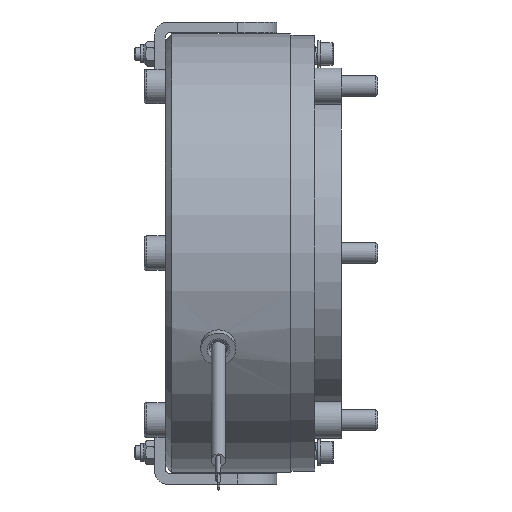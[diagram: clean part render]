
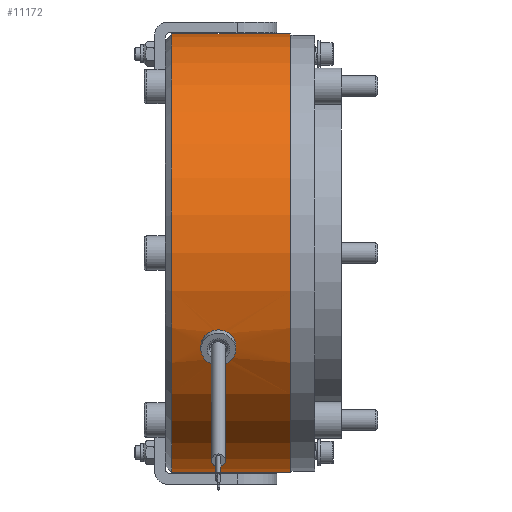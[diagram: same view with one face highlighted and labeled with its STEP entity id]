
A CAD part, front view. The second image highlights one B-rep face of the part: STEP entity #11172.
In plain terms, the highlighted cylindrical face has radius 82.5 mm (diameter 165 mm), a full revolution.
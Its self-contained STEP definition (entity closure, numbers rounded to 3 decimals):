
#364=B_SPLINE_CURVE_WITH_KNOTS('',3,(#19378,#19379,#19380,#19381,#19382,
#19383,#19384,#19385,#19386,#19387,#19388,#19389,#19390),.UNSPECIFIED.,
 .F.,.F.,(4,1,1,1,1,1,1,1,1,1,4),(-3.479,-3.355,-3.231,
-3.107,-2.982,-2.858,-2.734,-2.485,
-2.237,-1.988,-1.74),.UNSPECIFIED.);
#365=B_SPLINE_CURVE_WITH_KNOTS('',3,(#19391,#19392,#19393,#19394,#19395,
#19396,#19397,#19398,#19399,#19400,#19401,#19402,#19403),.UNSPECIFIED.,
 .F.,.F.,(4,1,1,1,1,1,1,1,1,1,4),(-1.74,-1.657,-1.491,
-0.994,-0.746,-0.621,-0.497,
-0.373,-0.249,-0.124,0.),
 .UNSPECIFIED.);
#675=CYLINDRICAL_SURFACE('',#12210,82.5);
#804=FACE_BOUND('',#2521,.T.);
#1290=CIRCLE('',#12211,82.5);
#1291=CIRCLE('',#12212,82.5);
#1292=CIRCLE('',#12213,82.5);
#1293=CIRCLE('',#12214,82.5);
#1887=FACE_OUTER_BOUND('',#2520,.T.);
#2520=EDGE_LOOP('',(#8842,#8843,#8844,#8845,#8846,#8847));
#2521=EDGE_LOOP('',(#8848,#8849,#8850,#8851,#8852,#8853));
#3218=LINE('',#19410,#3795);
#3219=LINE('',#19414,#3796);
#3220=LINE('',#19415,#3797);
#3795=VECTOR('',#14578,82.5);
#3796=VECTOR('',#14583,10.);
#3797=VECTOR('',#14584,10.);
#4705=VERTEX_POINT('',#19141);
#4706=VERTEX_POINT('',#19142);
#4708=VERTEX_POINT('',#19149);
#4709=VERTEX_POINT('',#19151);
#4768=VERTEX_POINT('',#19405);
#4769=VERTEX_POINT('',#19406);
#4770=VERTEX_POINT('',#19409);
#4771=VERTEX_POINT('',#19411);
#6213=EDGE_CURVE('',#4708,#4709,#364,.T.);
#6214=EDGE_CURVE('',#4709,#4708,#365,.T.);
#6215=EDGE_CURVE('',#4768,#4769,#1290,.T.);
#6216=EDGE_CURVE('',#4769,#4768,#1291,.T.);
#6217=EDGE_CURVE('',#4769,#4770,#3218,.T.);
#6218=EDGE_CURVE('',#4771,#4770,#1292,.T.);
#6219=EDGE_CURVE('',#4770,#4771,#1293,.T.);
#6220=EDGE_CURVE('',#4708,#4706,#3219,.T.);
#6221=EDGE_CURVE('',#4705,#4709,#3220,.T.);
#8842=ORIENTED_EDGE('',*,*,#6215,.F.);
#8843=ORIENTED_EDGE('',*,*,#6216,.F.);
#8844=ORIENTED_EDGE('',*,*,#6217,.T.);
#8845=ORIENTED_EDGE('',*,*,#6218,.F.);
#8846=ORIENTED_EDGE('',*,*,#6219,.F.);
#8847=ORIENTED_EDGE('',*,*,#6217,.F.);
#8848=ORIENTED_EDGE('',*,*,#6213,.F.);
#8849=ORIENTED_EDGE('',*,*,#6220,.T.);
#8850=ORIENTED_EDGE('',*,*,#6220,.F.);
#8851=ORIENTED_EDGE('',*,*,#6214,.F.);
#8852=ORIENTED_EDGE('',*,*,#6221,.F.);
#8853=ORIENTED_EDGE('',*,*,#6221,.T.);
#11172=ADVANCED_FACE('',(#1887,#804),#675,.T.);
#12210=AXIS2_PLACEMENT_3D('',#19404,#14572,#14573);
#12211=AXIS2_PLACEMENT_3D('',#19407,#14574,#14575);
#12212=AXIS2_PLACEMENT_3D('',#19408,#14576,#14577);
#12213=AXIS2_PLACEMENT_3D('',#19412,#14579,#14580);
#12214=AXIS2_PLACEMENT_3D('',#19413,#14581,#14582);
#14572=DIRECTION('center_axis',(1.,0.,0.));
#14573=DIRECTION('ref_axis',(0.,1.,0.));
#14574=DIRECTION('center_axis',(1.,0.,0.));
#14575=DIRECTION('ref_axis',(0.,1.,0.));
#14576=DIRECTION('center_axis',(1.,0.,0.));
#14577=DIRECTION('ref_axis',(0.,1.,0.));
#14578=DIRECTION('',(-1.,0.,0.));
#14579=DIRECTION('center_axis',(-1.,0.,0.));
#14580=DIRECTION('ref_axis',(0.,-1.,0.));
#14581=DIRECTION('center_axis',(-1.,0.,0.));
#14582=DIRECTION('ref_axis',(0.,-1.,0.));
#14583=DIRECTION('',(1.,0.,0.));
#14584=DIRECTION('',(1.,0.,0.));
#19141=CARTESIAN_POINT('',(-33.6,-74.77,-34.866));
#19142=CARTESIAN_POINT('',(-20.4,-74.77,-34.866));
#19149=CARTESIAN_POINT('',(-21.4,-74.77,-34.866));
#19151=CARTESIAN_POINT('',(-32.6,-74.77,-34.866));
#19378=CARTESIAN_POINT('Ctrl Pts',(-21.4,-74.77,
-34.866));
#19379=CARTESIAN_POINT('Ctrl Pts',(-21.4,-74.889,
-34.612));
#19380=CARTESIAN_POINT('Ctrl Pts',(-21.428,-75.118,
-34.117));
#19381=CARTESIAN_POINT('Ctrl Pts',(-21.71,-75.602,
-33.032));
#19382=CARTESIAN_POINT('Ctrl Pts',(-22.34,-76.09,
-31.892));
#19383=CARTESIAN_POINT('Ctrl Pts',(-23.316,-76.508,-30.872));
#19384=CARTESIAN_POINT('Ctrl Pts',(-24.51,-76.797,
-30.142));
#19385=CARTESIAN_POINT('Ctrl Pts',(-26.15,-77.007,
-29.601));
#19386=CARTESIAN_POINT('Ctrl Pts',(-28.288,-77.006,
-29.603));
#19387=CARTESIAN_POINT('Ctrl Pts',(-30.612,-76.596,
-30.661));
#19388=CARTESIAN_POINT('Ctrl Pts',(-32.222,-75.82,
-32.551));
#19389=CARTESIAN_POINT('Ctrl Pts',(-32.597,-75.128,-34.097));
#19390=CARTESIAN_POINT('Ctrl Pts',(-32.599,-74.77,
-34.866));
#19391=CARTESIAN_POINT('Ctrl Pts',(-32.599,-74.77,
-34.866));
#19392=CARTESIAN_POINT('Ctrl Pts',(-32.6,-74.651,
-35.122));
#19393=CARTESIAN_POINT('Ctrl Pts',(-32.541,-74.289,
-35.89));
#19394=CARTESIAN_POINT('Ctrl Pts',(-31.801,-73.196,-38.108));
#19395=CARTESIAN_POINT('Ctrl Pts',(-29.152,-72.171,-39.971));
#19396=CARTESIAN_POINT('Ctrl Pts',(-26.145,-72.177,
-39.96));
#19397=CARTESIAN_POINT('Ctrl Pts',(-24.512,-72.454,
-39.456));
#19398=CARTESIAN_POINT('Ctrl Pts',(-23.315,-72.828,
-38.764));
#19399=CARTESIAN_POINT('Ctrl Pts',(-22.34,-73.34,
-37.788));
#19400=CARTESIAN_POINT('Ctrl Pts',(-21.71,-73.9,-36.682));
#19401=CARTESIAN_POINT('Ctrl Pts',(-21.428,-74.42,
-35.614));
#19402=CARTESIAN_POINT('Ctrl Pts',(-21.4,-74.652,
-35.12));
#19403=CARTESIAN_POINT('Ctrl Pts',(-21.4,-74.77,
-34.866));
#19404=CARTESIAN_POINT('Origin',(-23.5,0.,0.));
#19405=CARTESIAN_POINT('',(0.,82.5,0.));
#19406=CARTESIAN_POINT('',(0.,-82.5,0.));
#19407=CARTESIAN_POINT('Origin',(0.,0.,0.));
#19408=CARTESIAN_POINT('Origin',(0.,0.,0.));
#19409=CARTESIAN_POINT('',(-44.5,-82.5,0.));
#19410=CARTESIAN_POINT('',(-23.5,-82.5,0.));
#19411=CARTESIAN_POINT('',(-44.5,82.5,0.));
#19412=CARTESIAN_POINT('Origin',(-44.5,0.,0.));
#19413=CARTESIAN_POINT('Origin',(-44.5,0.,0.));
#19414=CARTESIAN_POINT('',(-23.5,-74.77,-34.866));
#19415=CARTESIAN_POINT('',(-23.5,-74.77,-34.866));
